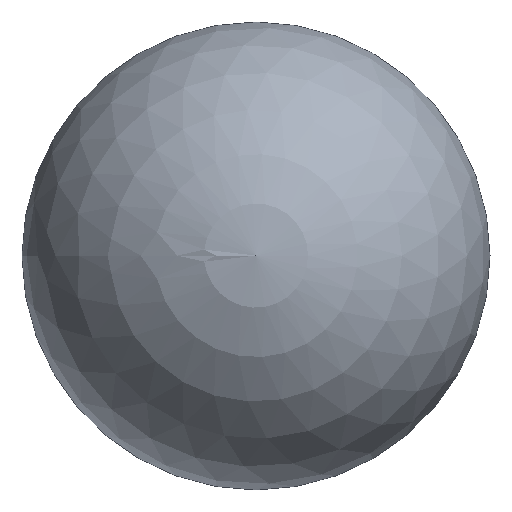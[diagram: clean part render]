
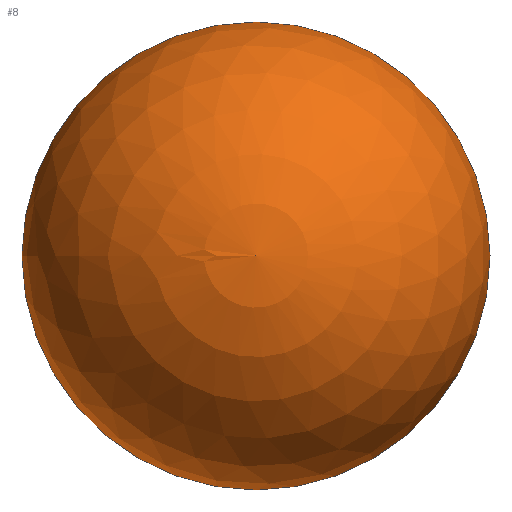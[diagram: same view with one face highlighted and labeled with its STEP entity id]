
A CAD part, top view. The second image highlights one B-rep face of the part: STEP entity #8.
In plain terms, the highlighted spherical face has radius 203.2 mm.
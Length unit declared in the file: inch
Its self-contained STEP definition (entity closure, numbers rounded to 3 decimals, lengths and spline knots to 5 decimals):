
#7 = AXIS2_PLACEMENT_3D ( 'NONE', #40, #28, #41 ) ;
#8 = ADVANCED_FACE ( 'NONE', ( #97 ), #118, .T. ) ;
#23 = ORIENTED_EDGE ( 'NONE', *, *, #60, .F. ) ;
#27 = CIRCLE ( 'NONE', #7, 8. ) ;
#28 = DIRECTION ( 'NONE',  ( 0., 0., -1. ) ) ;
#31 = DIRECTION ( 'NONE',  ( 0., 0., 1. ) ) ;
#40 = CARTESIAN_POINT ( 'NONE',  ( 0., 0., 0. ) ) ;
#41 = DIRECTION ( 'NONE',  ( -1., 0., 0. ) ) ;
#44 = EDGE_LOOP ( 'NONE', ( #23, #86 ) ) ;
#51 = CARTESIAN_POINT ( 'NONE',  ( 0., -8., 0. ) ) ;
#53 = DIRECTION ( 'NONE',  ( 1., 0., 0. ) ) ;
#55 = EDGE_CURVE ( 'NONE', #113, #66, #110, .T. ) ;
#60 = EDGE_CURVE ( 'NONE', #113, #66, #27, .T. ) ;
#61 = AXIS2_PLACEMENT_3D ( 'NONE', #70, #104, #108 ) ;
#66 = VERTEX_POINT ( 'NONE', #51 ) ;
#70 = CARTESIAN_POINT ( 'NONE',  ( 0., 0., 0. ) ) ;
#73 = CARTESIAN_POINT ( 'NONE',  ( 0., 8., 0. ) ) ;
#75 = AXIS2_PLACEMENT_3D ( 'NONE', #100, #31, #53 ) ;
#86 = ORIENTED_EDGE ( 'NONE', *, *, #55, .T. ) ;
#97 = FACE_OUTER_BOUND ( 'NONE', #44, .T. ) ;
#100 = CARTESIAN_POINT ( 'NONE',  ( 0., 0., 0. ) ) ;
#104 = DIRECTION ( 'NONE',  ( 0., 0., -1. ) ) ;
#108 = DIRECTION ( 'NONE',  ( -1., 0., 0. ) ) ;
#110 = CIRCLE ( 'NONE', #75, 8. ) ;
#113 = VERTEX_POINT ( 'NONE', #73 ) ;
#118 = SPHERICAL_SURFACE ( 'NONE', #61, 8. ) ;
